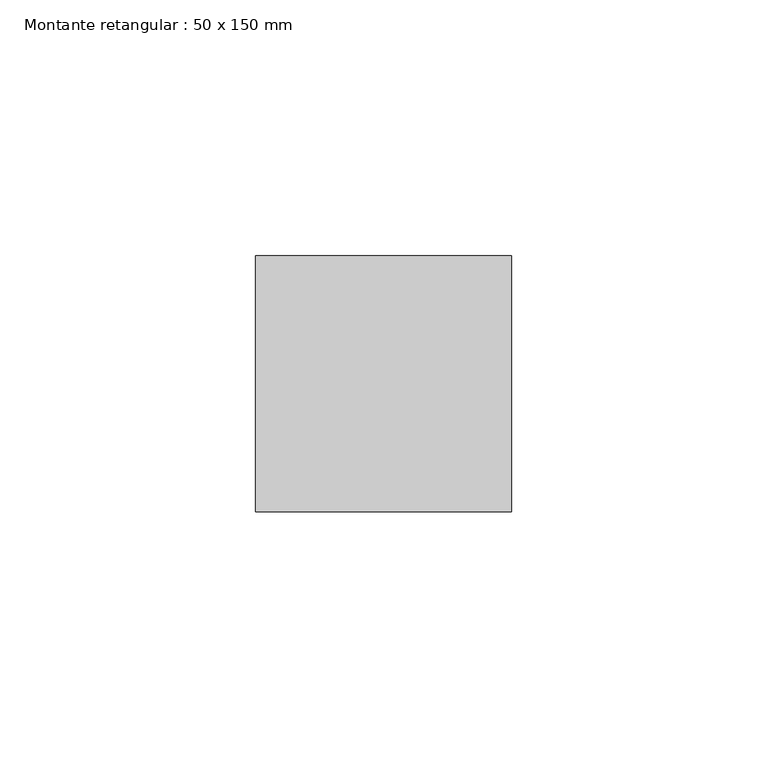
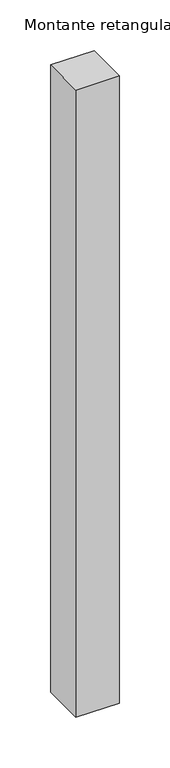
"""IFC4 building model written with IfcOpenShell, lengths in millimetres: member geometry, Montante retangular : 50 x 150 mm."""

from ifc_helpers import new_model, si_unit, frame, origin, place, context, project, spatial, polyline, outline, extrude, source, transform, mapped, element, save


def montante_retangular_50_x_150_mm_a2f664f8(model_context):
    return source(origin(), model_context, "Body", "SweptSolid", [
        extrude(outline(polyline([(0.0, 25.0), (0.0, -25.0), (-50.0, -25.0), (-50.0, 25.0), (0.0, 25.0)])), frame((0.0, 0.0, -758.3333333), z_axis=(0.0, 0.0, 1.0), x_axis=(1.0, 0.0, 0.0)), (0.0, 0.0, 1.0), 758.3333333),
    ])


if __name__ == "__main__":
    model = new_model("IFC4")
    model_context = context("Model", 3, world=origin())
    ifc_project = project(units=[si_unit("LENGTHUNIT", "METRE", prefix="MILLI")], contexts=[model_context])
    site = spatial("IfcSite", under=ifc_project)
    building = spatial("IfcBuilding", under=site)
    placement = place(None, origin())
    montante_retangular_50_x_150_mm_shape = montante_retangular_50_x_150_mm_a2f664f8(model_context)
    element("IfcMember", 1, ObjectType="Montante retangular : 50 x 150 mm", at=placement, inside=building, context=model_context, shape_type="MappedRepresentation", body=[
        mapped(montante_retangular_50_x_150_mm_shape, transform((0.0, 0.0, 0.0), x_axis=(1.0, 0.0, 0.0), y_axis=(0.0, 1.0, 0.0), z_axis=(0.0, 0.0, 1.0))),
    ])
    save(model, "model.ifc")
